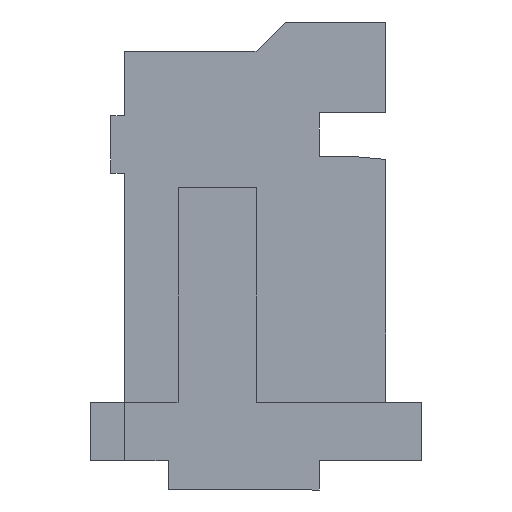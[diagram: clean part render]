
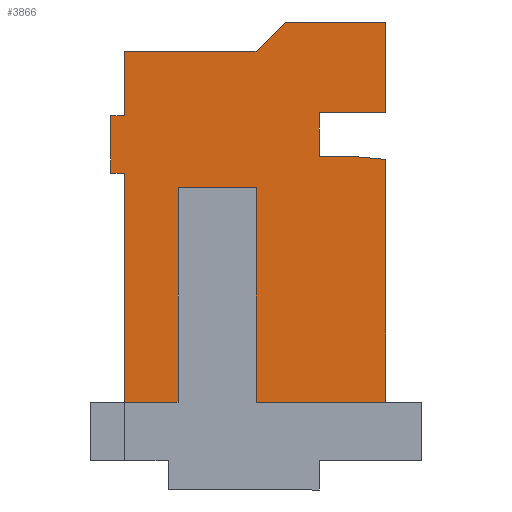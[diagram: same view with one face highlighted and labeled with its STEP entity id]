
A CAD part, left-side view. The second image highlights one B-rep face of the part: STEP entity #3866.
In plain terms, the highlighted planar face has unit normal (-1, 0, 0).
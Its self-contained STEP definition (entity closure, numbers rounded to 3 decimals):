
#1473 = CARTESIAN_POINT ( 'NONE',  ( -9.2, 3.45, 1.89 ) ) ;
#1505 = DIRECTION ( 'NONE',  ( 0., 0.707, -0.707 ) ) ;
#1506 = VECTOR ( 'NONE', #1505, 1000. ) ;
#1507 = CARTESIAN_POINT ( 'NONE',  ( -9.2, 1.8, 2.85 ) ) ;
#1508 = LINE ( 'NONE', #1507, #1506 ) ;
#1509 = CARTESIAN_POINT ( 'NONE',  ( -9.2, 2.1, 2.55 ) ) ;
#1523 = CARTESIAN_POINT ( 'NONE',  ( -9.2, 3.45, 2.55 ) ) ;
#1524 = DIRECTION ( 'NONE',  ( 0., 0., -1. ) ) ;
#1525 = VECTOR ( 'NONE', #1524, 1000. ) ;
#1526 = CARTESIAN_POINT ( 'NONE',  ( -9.2, 3.45, 2.55 ) ) ;
#1527 = LINE ( 'NONE', #1526, #1525 ) ;
#1571 = DIRECTION ( 'NONE',  ( 0., 1., 0. ) ) ;
#1572 = VECTOR ( 'NONE', #1571, 1000. ) ;
#1573 = CARTESIAN_POINT ( 'NONE',  ( -9.2, 0.77, 2.85 ) ) ;
#1574 = LINE ( 'NONE', #1573, #1572 ) ;
#1576 = CARTESIAN_POINT ( 'NONE',  ( -9.2, 1.8, 2.85 ) ) ;
#1623 = CARTESIAN_POINT ( 'NONE',  ( -9.2, 0.77, 1.92 ) ) ;
#1624 = DIRECTION ( 'NONE',  ( 0., 0., 1. ) ) ;
#1625 = VECTOR ( 'NONE', #1624, 1000. ) ;
#1626 = CARTESIAN_POINT ( 'NONE',  ( -9.2, 0.77, 2.85 ) ) ;
#1627 = LINE ( 'NONE', #1626, #1625 ) ;
#1628 = CARTESIAN_POINT ( 'NONE',  ( -9.2, 0.77, 2.85 ) ) ;
#1694 = CARTESIAN_POINT ( 'NONE',  ( -9.2, 0.77, -1.05 ) ) ;
#1695 = DIRECTION ( 'NONE',  ( 0., 0., 1. ) ) ;
#1696 = VECTOR ( 'NONE', #1695, 1000. ) ;
#1697 = CARTESIAN_POINT ( 'NONE',  ( -9.2, 0.77, 2.85 ) ) ;
#1698 = LINE ( 'NONE', #1697, #1696 ) ;
#1699 = CARTESIAN_POINT ( 'NONE',  ( -9.2, 0.77, 1.441 ) ) ;
#1724 = DIRECTION ( 'NONE',  ( 0., 1., 0. ) ) ;
#1725 = VECTOR ( 'NONE', #1724, 1000. ) ;
#1726 = CARTESIAN_POINT ( 'NONE',  ( -9.2, 3.45, 1.47 ) ) ;
#1727 = LINE ( 'NONE', #1726, #1725 ) ;
#1737 = CARTESIAN_POINT ( 'NONE',  ( -9.2, 3.45, 1.3 ) ) ;
#1738 = DIRECTION ( 'NONE',  ( 0., 0., -1. ) ) ;
#1739 = VECTOR ( 'NONE', #1738, 1000. ) ;
#1740 = CARTESIAN_POINT ( 'NONE',  ( -9.2, 3.45, 2.55 ) ) ;
#1741 = LINE ( 'NONE', #1740, #1739 ) ;
#1742 = CARTESIAN_POINT ( 'NONE',  ( -9.2, 3.45, -1.05 ) ) ;
#1761 = CARTESIAN_POINT ( 'NONE',  ( -9.2, 1.1, 1.47 ) ) ;
#1779 = DIRECTION ( 'NONE',  ( 0., 1., 0. ) ) ;
#1780 = VECTOR ( 'NONE', #1779, 1000. ) ;
#1781 = CARTESIAN_POINT ( 'NONE',  ( -9.2, 2.1, 2.55 ) ) ;
#1782 = LINE ( 'NONE', #1781, #1780 ) ;
#1808 = DIRECTION ( 'NONE',  ( 0., -1., 0. ) ) ;
#1809 = VECTOR ( 'NONE', #1808, 1000. ) ;
#1810 = CARTESIAN_POINT ( 'NONE',  ( -9.2, 3.45, 1.92 ) ) ;
#1811 = LINE ( 'NONE', #1810, #1809 ) ;
#1818 = CARTESIAN_POINT ( 'NONE',  ( -9.2, 1.45, 1.92 ) ) ;
#1864 = DIRECTION ( 'NONE',  ( 0., 0., 1. ) ) ;
#1865 = VECTOR ( 'NONE', #1864, 1000. ) ;
#1866 = CARTESIAN_POINT ( 'NONE',  ( -9.2, 1.45, -1.05 ) ) ;
#1867 = LINE ( 'NONE', #1866, #1865 ) ;
#1873 = CARTESIAN_POINT ( 'NONE',  ( -9.2, 1.45, 1.47 ) ) ;
#1902 = DIRECTION ( 'NONE',  ( 0., -1., 0. ) ) ;
#1903 = VECTOR ( 'NONE', #1902, 1000. ) ;
#1904 = CARTESIAN_POINT ( 'NONE',  ( -9.2, 3.45, -1.05 ) ) ;
#1905 = LINE ( 'NONE', #1904, #1903 ) ;
#1907 = CARTESIAN_POINT ( 'NONE',  ( -9.2, 2.9, -1.05 ) ) ;
#1932 = DIRECTION ( 'NONE',  ( 0., 0.996, 0.087 ) ) ;
#1933 = VECTOR ( 'NONE', #1932, 1000. ) ;
#1934 = CARTESIAN_POINT ( 'NONE',  ( -9.2, 3.213, 1.655 ) ) ;
#1935 = LINE ( 'NONE', #1934, #1933 ) ;
#1976 = CARTESIAN_POINT ( 'NONE',  ( -9.2, 3.59, 1.3 ) ) ;
#1977 = DIRECTION ( 'NONE',  ( 0., 0., -1. ) ) ;
#1978 = VECTOR ( 'NONE', #1977, 1000. ) ;
#1979 = CARTESIAN_POINT ( 'NONE',  ( -9.2, 3.59, 1.89 ) ) ;
#1980 = LINE ( 'NONE', #1979, #1978 ) ;
#1981 = CARTESIAN_POINT ( 'NONE',  ( -9.2, 3.59, 1.89 ) ) ;
#1982 = DIRECTION ( 'NONE',  ( 0., 1., 0. ) ) ;
#1983 = VECTOR ( 'NONE', #1982, 1000. ) ;
#1984 = CARTESIAN_POINT ( 'NONE',  ( -9.2, 3.45, 1.89 ) ) ;
#1985 = LINE ( 'NONE', #1984, #1983 ) ;
#1987 = CARTESIAN_POINT ( 'NONE',  ( -9.2, 2.1, -1.05 ) ) ;
#1988 = DIRECTION ( 'NONE',  ( 0., 0., -1. ) ) ;
#1989 = VECTOR ( 'NONE', #1988, 1000. ) ;
#1990 = CARTESIAN_POINT ( 'NONE',  ( -9.2, 2.1, -1.05 ) ) ;
#1991 = LINE ( 'NONE', #1990, #1989 ) ;
#1992 = CARTESIAN_POINT ( 'NONE',  ( -9.2, 2.1, 1.15 ) ) ;
#1993 = DIRECTION ( 'NONE',  ( 0., -1., 0. ) ) ;
#1994 = VECTOR ( 'NONE', #1993, 1000. ) ;
#1995 = CARTESIAN_POINT ( 'NONE',  ( -9.2, 2.1, 1.15 ) ) ;
#1996 = LINE ( 'NONE', #1995, #1994 ) ;
#1997 = CARTESIAN_POINT ( 'NONE',  ( -9.2, 2.9, 1.15 ) ) ;
#1998 = DIRECTION ( 'NONE',  ( 0., 0., 1. ) ) ;
#1999 = VECTOR ( 'NONE', #1998, 1000. ) ;
#2000 = CARTESIAN_POINT ( 'NONE',  ( -9.2, 2.9, -1.05 ) ) ;
#2001 = LINE ( 'NONE', #2000, #1999 ) ;
#2022 = FACE_OUTER_BOUND ( 'NONE', #3867, .T. ) ;
#2033 = DIRECTION ( 'NONE',  ( 0., -1., 0. ) ) ;
#2034 = VECTOR ( 'NONE', #2033, 1000. ) ;
#2035 = CARTESIAN_POINT ( 'NONE',  ( -9.2, 3.45, 1.3 ) ) ;
#2036 = LINE ( 'NONE', #2035, #2034 ) ;
#2061 = DIRECTION ( 'NONE',  ( 0., 1., 0. ) ) ;
#2062 = DIRECTION ( 'NONE',  ( -1., 0., 0. ) ) ;
#2063 = CARTESIAN_POINT ( 'NONE',  ( -9.2, 3.45, -1.05 ) ) ;
#2064 = AXIS2_PLACEMENT_3D ( 'NONE', #2063, #2062, #2061 ) ;
#2065 = PLANE ( 'NONE',  #2064 ) ;
#2165 = DIRECTION ( 'NONE',  ( 0., -1., 0. ) ) ;
#2166 = VECTOR ( 'NONE', #2165, 1000. ) ;
#2167 = CARTESIAN_POINT ( 'NONE',  ( -9.2, 0.77, -1.05 ) ) ;
#2168 = LINE ( 'NONE', #2167, #2166 ) ;
#3635 = VERTEX_POINT ( 'NONE', #1473 ) ;
#3637 = EDGE_CURVE ( 'NONE', #3638, #3635, #1527, .T. ) ;
#3638 = VERTEX_POINT ( 'NONE', #1523 ) ;
#3647 = VERTEX_POINT ( 'NONE', #1509 ) ;
#3649 = EDGE_CURVE ( 'NONE', #3672, #3647, #1508, .T. ) ;
#3672 = VERTEX_POINT ( 'NONE', #1576 ) ;
#3674 = EDGE_CURVE ( 'NONE', #3689, #3672, #1574, .T. ) ;
#3689 = VERTEX_POINT ( 'NONE', #1628 ) ;
#3691 = EDGE_CURVE ( 'NONE', #3692, #3689, #1627, .T. ) ;
#3692 = VERTEX_POINT ( 'NONE', #1623 ) ;
#3703 = VERTEX_POINT ( 'NONE', #1699 ) ;
#3705 = EDGE_CURVE ( 'NONE', #3706, #3703, #1698, .T. ) ;
#3706 = VERTEX_POINT ( 'NONE', #1694 ) ;
#3711 = EDGE_CURVE ( 'NONE', #3720, #3783, #1727, .T. ) ;
#3720 = VERTEX_POINT ( 'NONE', #1761 ) ;
#3731 = VERTEX_POINT ( 'NONE', #1742 ) ;
#3733 = EDGE_CURVE ( 'NONE', #3734, #3731, #1741, .T. ) ;
#3734 = VERTEX_POINT ( 'NONE', #1737 ) ;
#3750 = EDGE_CURVE ( 'NONE', #3647, #3638, #1782, .T. ) ;
#3758 = VERTEX_POINT ( 'NONE', #1818 ) ;
#3764 = EDGE_CURVE ( 'NONE', #3758, #3692, #1811, .T. ) ;
#3783 = VERTEX_POINT ( 'NONE', #1873 ) ;
#3789 = EDGE_CURVE ( 'NONE', #3783, #3758, #1867, .T. ) ;
#3799 = VERTEX_POINT ( 'NONE', #1907 ) ;
#3801 = EDGE_CURVE ( 'NONE', #3731, #3799, #1905, .T. ) ;
#3816 = EDGE_CURVE ( 'NONE', #3703, #3720, #1935, .T. ) ;
#3835 = ORIENTED_EDGE ( 'NONE', *, *, #3733, .T. ) ;
#3836 = ORIENTED_EDGE ( 'NONE', *, *, #3801, .T. ) ;
#3837 = ORIENTED_EDGE ( 'NONE', *, *, #3838, .T. ) ;
#3838 = EDGE_CURVE ( 'NONE', #3799, #3839, #2001, .T. ) ;
#3839 = VERTEX_POINT ( 'NONE', #1997 ) ;
#3840 = ORIENTED_EDGE ( 'NONE', *, *, #3841, .T. ) ;
#3841 = EDGE_CURVE ( 'NONE', #3839, #3842, #1996, .T. ) ;
#3842 = VERTEX_POINT ( 'NONE', #1992 ) ;
#3843 = ORIENTED_EDGE ( 'NONE', *, *, #3844, .T. ) ;
#3844 = EDGE_CURVE ( 'NONE', #3842, #3845, #1991, .T. ) ;
#3845 = VERTEX_POINT ( 'NONE', #1987 ) ;
#3846 = ORIENTED_EDGE ( 'NONE', *, *, #3906, .T. ) ;
#3848 = ORIENTED_EDGE ( 'NONE', *, *, #3691, .T. ) ;
#3849 = ORIENTED_EDGE ( 'NONE', *, *, #3674, .T. ) ;
#3850 = ORIENTED_EDGE ( 'NONE', *, *, #3649, .T. ) ;
#3851 = ORIENTED_EDGE ( 'NONE', *, *, #3750, .T. ) ;
#3852 = ORIENTED_EDGE ( 'NONE', *, *, #3637, .T. ) ;
#3853 = ORIENTED_EDGE ( 'NONE', *, *, #3854, .T. ) ;
#3854 = EDGE_CURVE ( 'NONE', #3635, #3855, #1985, .T. ) ;
#3855 = VERTEX_POINT ( 'NONE', #1981 ) ;
#3856 = ORIENTED_EDGE ( 'NONE', *, *, #3857, .T. ) ;
#3857 = EDGE_CURVE ( 'NONE', #3855, #3858, #1980, .T. ) ;
#3858 = VERTEX_POINT ( 'NONE', #1976 ) ;
#3859 = ORIENTED_EDGE ( 'NONE', *, *, #3860, .T. ) ;
#3860 = EDGE_CURVE ( 'NONE', #3858, #3734, #2036, .T. ) ;
#3866 = ADVANCED_FACE ( 'NONE', ( #2022 ), #2065, .T. ) ;
#3867 = EDGE_LOOP ( 'NONE', ( #3868, #3869, #3848, #3849, #3850, #3851, #3852, #3853, #3856, #3859, #3835, #3836, #3837, #3840, #3843, #3846, #3907, #3908, #3909 ) ) ;
#3868 = ORIENTED_EDGE ( 'NONE', *, *, #3789, .T. ) ;
#3869 = ORIENTED_EDGE ( 'NONE', *, *, #3764, .T. ) ;
#3906 = EDGE_CURVE ( 'NONE', #3845, #3706, #2168, .T. ) ;
#3907 = ORIENTED_EDGE ( 'NONE', *, *, #3705, .T. ) ;
#3908 = ORIENTED_EDGE ( 'NONE', *, *, #3816, .T. ) ;
#3909 = ORIENTED_EDGE ( 'NONE', *, *, #3711, .T. ) ;
